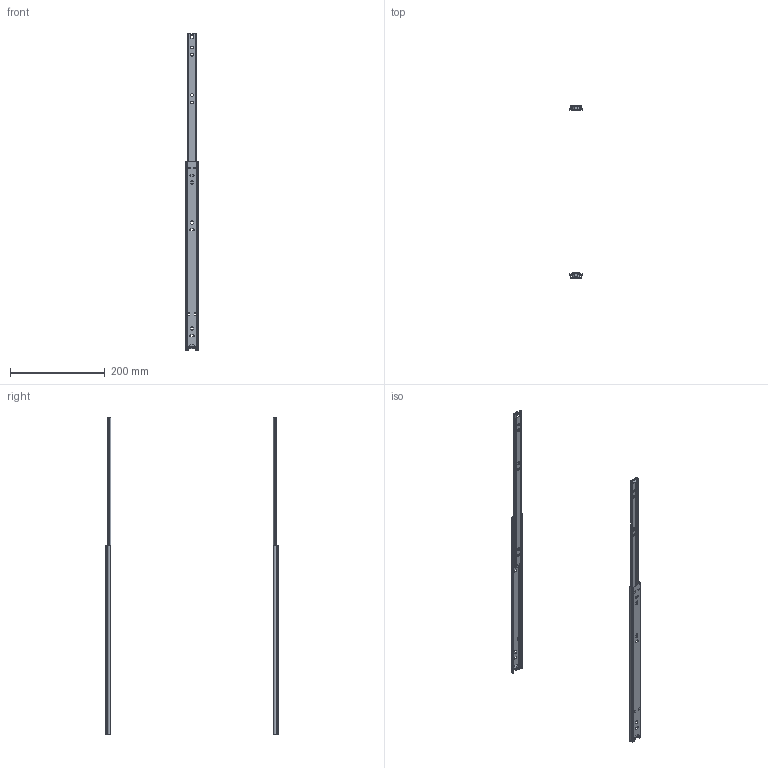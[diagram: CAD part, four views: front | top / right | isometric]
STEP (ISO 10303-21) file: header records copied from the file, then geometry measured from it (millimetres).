
FILE_DESCRIPTION(/* description */ (''),/* implementation_level */ '2;1');
FILE_NAME(/* name */ 'D:\$Workingspace\Designs\Katalog\Cadsoft\GTV Prowadnice\bry\X2\0142\X0\y\PK-0H27-4000_wysunieta.stp',/* time_stamp */ '2016-12-08T12:40:05+01:00',/* author */ ('tomaszw'),/* organization */ (''),/* preprocessor_version */ 'ST-DEVELOPER v16.1',/* originating_system */ 'Autodesk Inventor 2016',/* authorisation */ '');
FILE_SCHEMA (('AUTOMOTIVE_DESIGN { 1 0 10303 214 3 1 1 }'));
Length unit declared in the file: millimetre
Products named in the file (4): Blokada_1; PK-0H27_1-400; PK-0H27_2-400; PK-0H27
Assembly tree (6 placements, depth 2):
  PK-0H27
    Blokada_1  x2
    PK-0H27_1-400  x2
    PK-0H27_2-400  x2
Bounding box: 26.99 x 364 x 670 mm (x, y, z)
Volume: 52698 mm3; surface area: 108708.5 mm2
Topology: 6 solids, 6 shells, 318 faces, 912 edges, 604 vertices
Faces by surface type: plane 186, cylinder 132
Entity records: 5636 total; most frequent: CARTESIAN_POINT 1025, ORIENTED_EDGE 912, DIRECTION 912, EDGE_CURVE 456, LINE 318, VECTOR 318, VERTEX_POINT 302, AXIS2_PLACEMENT_3D 297
